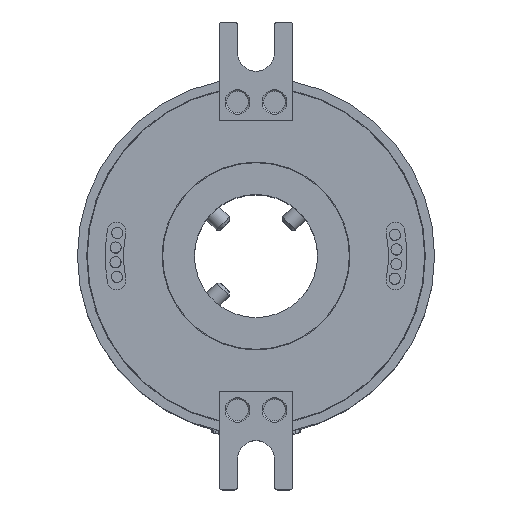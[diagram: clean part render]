
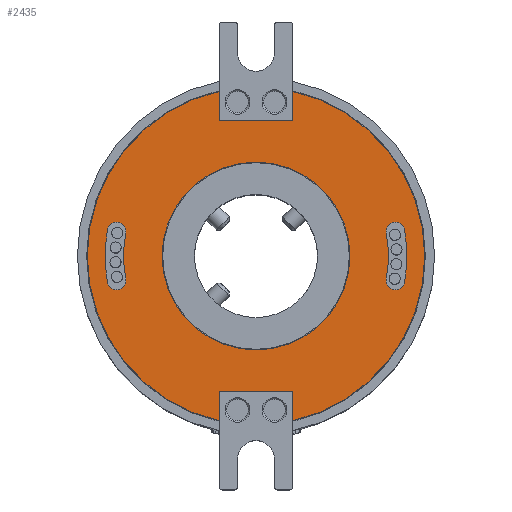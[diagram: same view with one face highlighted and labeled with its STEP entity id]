
A CAD part, top view. The second image highlights one B-rep face of the part: STEP entity #2435.
In plain terms, the highlighted planar face has unit normal (0, 0, 1).
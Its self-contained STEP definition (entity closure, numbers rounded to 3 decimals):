
#165=FACE_BOUND('',#4268,.T.);
#166=FACE_BOUND('',#4269,.T.);
#167=FACE_BOUND('',#4270,.T.);
#168=FACE_BOUND('',#4271,.T.);
#501=CIRCLE('',#14412,24.5);
#502=CIRCLE('',#14413,1.5);
#503=CIRCLE('',#14414,21.5);
#504=CIRCLE('',#14415,1.5);
#505=CIRCLE('',#14416,24.5);
#506=CIRCLE('',#14417,1.5);
#507=CIRCLE('',#14418,21.5);
#508=CIRCLE('',#14419,1.5);
#509=CIRCLE('',#14420,27.4);
#510=CIRCLE('',#14421,27.4);
#511=CIRCLE('',#14422,15.25);
#1151=LINE('',#26992,#1720);
#1152=LINE('',#26994,#1721);
#1153=LINE('',#26996,#1722);
#1154=LINE('',#27000,#1723);
#1155=LINE('',#27002,#1724);
#1156=LINE('',#27004,#1725);
#1720=VECTOR('',#15966,1.);
#1721=VECTOR('',#15967,1.);
#1722=VECTOR('',#15968,1.);
#1723=VECTOR('',#15971,1.);
#1724=VECTOR('',#15972,1.);
#1725=VECTOR('',#15973,1.);
#2435=ADVANCED_FACE('',(#165,#166,#167,#168),#2967,.F.);
#2967=PLANE('',#14423);
#4268=EDGE_LOOP('',(#6768,#6769,#6770,#6771));
#4269=EDGE_LOOP('',(#6772,#6773,#6774,#6775));
#4270=EDGE_LOOP('',(#6776,#6777,#6778,#6779,#6780,#6781,#6782,#6783));
#4271=EDGE_LOOP('',(#6784));
#6768=ORIENTED_EDGE('',*,*,#11731,.T.);
#6769=ORIENTED_EDGE('',*,*,#11732,.T.);
#6770=ORIENTED_EDGE('',*,*,#11733,.F.);
#6771=ORIENTED_EDGE('',*,*,#11734,.T.);
#6772=ORIENTED_EDGE('',*,*,#11735,.T.);
#6773=ORIENTED_EDGE('',*,*,#11736,.T.);
#6774=ORIENTED_EDGE('',*,*,#11737,.F.);
#6775=ORIENTED_EDGE('',*,*,#11738,.T.);
#6776=ORIENTED_EDGE('',*,*,#11739,.T.);
#6777=ORIENTED_EDGE('',*,*,#11740,.T.);
#6778=ORIENTED_EDGE('',*,*,#11741,.T.);
#6779=ORIENTED_EDGE('',*,*,#11742,.T.);
#6780=ORIENTED_EDGE('',*,*,#11743,.T.);
#6781=ORIENTED_EDGE('',*,*,#11744,.T.);
#6782=ORIENTED_EDGE('',*,*,#11745,.T.);
#6783=ORIENTED_EDGE('',*,*,#11746,.T.);
#6784=ORIENTED_EDGE('',*,*,#11747,.T.);
#9876=VERTEX_POINT('',#26974);
#9877=VERTEX_POINT('',#26975);
#9878=VERTEX_POINT('',#26977);
#9879=VERTEX_POINT('',#26979);
#9880=VERTEX_POINT('',#26982);
#9881=VERTEX_POINT('',#26983);
#9882=VERTEX_POINT('',#26985);
#9883=VERTEX_POINT('',#26987);
#9884=VERTEX_POINT('',#26990);
#9885=VERTEX_POINT('',#26991);
#9886=VERTEX_POINT('',#26993);
#9887=VERTEX_POINT('',#26995);
#9888=VERTEX_POINT('',#26997);
#9889=VERTEX_POINT('',#26999);
#9890=VERTEX_POINT('',#27001);
#9891=VERTEX_POINT('',#27003);
#9892=VERTEX_POINT('',#27006);
#11731=EDGE_CURVE('',#9876,#9877,#501,.T.);
#11732=EDGE_CURVE('',#9877,#9878,#502,.T.);
#11733=EDGE_CURVE('',#9879,#9878,#503,.T.);
#11734=EDGE_CURVE('',#9879,#9876,#504,.T.);
#11735=EDGE_CURVE('',#9880,#9881,#505,.T.);
#11736=EDGE_CURVE('',#9881,#9882,#506,.T.);
#11737=EDGE_CURVE('',#9883,#9882,#507,.T.);
#11738=EDGE_CURVE('',#9883,#9880,#508,.T.);
#11739=EDGE_CURVE('',#9884,#9885,#509,.T.);
#11740=EDGE_CURVE('',#9885,#9886,#1151,.T.);
#11741=EDGE_CURVE('',#9886,#9887,#1152,.T.);
#11742=EDGE_CURVE('',#9887,#9888,#1153,.T.);
#11743=EDGE_CURVE('',#9888,#9889,#510,.T.);
#11744=EDGE_CURVE('',#9889,#9890,#1154,.T.);
#11745=EDGE_CURVE('',#9890,#9891,#1155,.T.);
#11746=EDGE_CURVE('',#9891,#9884,#1156,.T.);
#11747=EDGE_CURVE('',#9892,#9892,#511,.T.);
#14412=AXIS2_PLACEMENT_3D('',#26973,#15948,#15949);
#14413=AXIS2_PLACEMENT_3D('',#26976,#15950,#15951);
#14414=AXIS2_PLACEMENT_3D('',#26978,#15952,#15953);
#14415=AXIS2_PLACEMENT_3D('',#26980,#15954,#15955);
#14416=AXIS2_PLACEMENT_3D('',#26981,#15956,#15957);
#14417=AXIS2_PLACEMENT_3D('',#26984,#15958,#15959);
#14418=AXIS2_PLACEMENT_3D('',#26986,#15960,#15961);
#14419=AXIS2_PLACEMENT_3D('',#26988,#15962,#15963);
#14420=AXIS2_PLACEMENT_3D('',#26989,#15964,#15965);
#14421=AXIS2_PLACEMENT_3D('',#26998,#15969,#15970);
#14422=AXIS2_PLACEMENT_3D('',#27005,#15974,#15975);
#14423=AXIS2_PLACEMENT_3D('',#27007,#15976,#15977);
#15948=DIRECTION('',(0.,0.,-1.));
#15949=DIRECTION('',(1.,0.,0.));
#15950=DIRECTION('',(0.,0.,-1.));
#15951=DIRECTION('',(0.985,-0.174,0.));
#15952=DIRECTION('',(0.,0.,-1.));
#15953=DIRECTION('',(1.,0.,0.));
#15954=DIRECTION('',(0.,0.,-1.));
#15955=DIRECTION('',(0.985,0.174,0.));
#15956=DIRECTION('',(0.,0.,-1.));
#15957=DIRECTION('',(1.,0.,0.));
#15958=DIRECTION('',(0.,0.,-1.));
#15959=DIRECTION('',(0.985,-0.174,0.));
#15960=DIRECTION('',(0.,0.,-1.));
#15961=DIRECTION('',(1.,0.,0.));
#15962=DIRECTION('',(0.,0.,-1.));
#15963=DIRECTION('',(0.985,0.174,0.));
#15964=DIRECTION('',(0.,0.,1.));
#15965=DIRECTION('',(-1.,0.,0.));
#15966=DIRECTION('',(0.,1.,0.));
#15967=DIRECTION('',(1.,0.,0.));
#15968=DIRECTION('',(0.,-1.,0.));
#15969=DIRECTION('',(0.,0.,1.));
#15970=DIRECTION('',(-1.,0.,0.));
#15971=DIRECTION('',(0.,-1.,0.));
#15972=DIRECTION('',(-1.,0.,0.));
#15973=DIRECTION('',(0.,1.,0.));
#15974=DIRECTION('',(0.,0.,-1.));
#15975=DIRECTION('',(1.,0.,0.));
#15976=DIRECTION('',(0.,0.,-1.));
#15977=DIRECTION('',(-1.,0.,0.));
#26973=CARTESIAN_POINT('',(0.,0.,54.));
#26974=CARTESIAN_POINT('',(-24.128,-4.254,54.));
#26975=CARTESIAN_POINT('',(-24.128,4.254,54.));
#26976=CARTESIAN_POINT('',(-22.651,3.994,54.));
#26977=CARTESIAN_POINT('',(-21.173,3.733,54.));
#26978=CARTESIAN_POINT('',(0.,0.,54.));
#26979=CARTESIAN_POINT('',(-21.173,-3.733,54.));
#26980=CARTESIAN_POINT('',(-22.651,-3.994,54.));
#26981=CARTESIAN_POINT('',(0.,0.,54.));
#26982=CARTESIAN_POINT('',(24.128,4.254,54.));
#26983=CARTESIAN_POINT('',(24.128,-4.254,54.));
#26984=CARTESIAN_POINT('',(22.651,-3.994,54.));
#26985=CARTESIAN_POINT('',(21.173,-3.733,54.));
#26986=CARTESIAN_POINT('',(0.,0.,54.));
#26987=CARTESIAN_POINT('',(21.173,3.733,54.));
#26988=CARTESIAN_POINT('',(22.651,3.994,54.));
#26989=CARTESIAN_POINT('',(0.,0.,54.));
#26990=CARTESIAN_POINT('',(-6.,26.735,54.));
#26991=CARTESIAN_POINT('',(-6.,-26.735,54.));
#26992=CARTESIAN_POINT('',(-6.,-37.5,54.));
#26993=CARTESIAN_POINT('',(-6.,-22.,54.));
#26994=CARTESIAN_POINT('',(0.,-22.,54.));
#26995=CARTESIAN_POINT('',(6.,-22.,54.));
#26996=CARTESIAN_POINT('',(6.,-22.,54.));
#26997=CARTESIAN_POINT('',(6.,-26.735,54.));
#26998=CARTESIAN_POINT('',(0.,0.,54.));
#26999=CARTESIAN_POINT('',(6.,26.735,54.));
#27000=CARTESIAN_POINT('',(6.,37.5,54.));
#27001=CARTESIAN_POINT('',(6.,22.,54.));
#27002=CARTESIAN_POINT('',(0.,22.,54.));
#27003=CARTESIAN_POINT('',(-6.,22.,54.));
#27004=CARTESIAN_POINT('',(-6.,22.,54.));
#27005=CARTESIAN_POINT('',(0.,0.,54.));
#27006=CARTESIAN_POINT('',(15.25,0.,54.));
#27007=CARTESIAN_POINT('',(0.,0.,54.));
